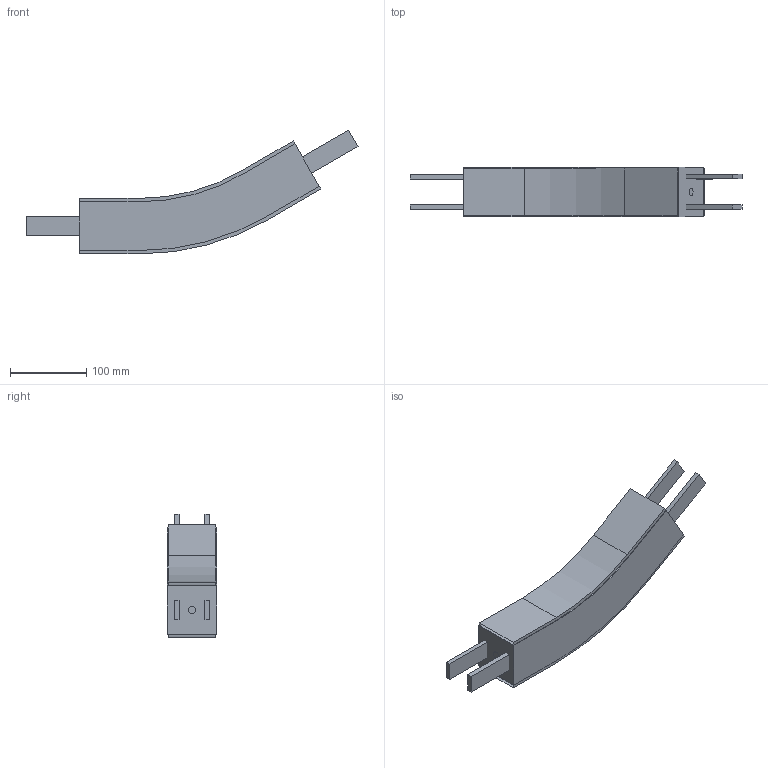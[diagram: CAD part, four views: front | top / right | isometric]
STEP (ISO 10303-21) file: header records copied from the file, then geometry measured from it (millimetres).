
FILE_DESCRIPTION(/* description */ ('Vertikaler Gleitbogen, 30°, R300'),/* implementation_level */ '2;1');
FILE_NAME(/* name */ 'T:\vdz0\Step Daten Website\modulflex FL-System\Vertikale Gleitbögen\FLBV 30R300_43670.stp',/* time_stamp */ '2024-09-03T10:01:13+02:00',/* author */ ('lzb0'),/* organization */ ('modular automation GmbH'),/* preprocessor_version */ 'ST-DEVELOPER v18.1',/* originating_system */ 'Autodesk Inventor 2021',/* authorisation */ '');
FILE_SCHEMA (('AUTOMOTIVE_DESIGN { 1 0 10303 214 3 1 1 }'));
Length unit declared in the file: millimetre
Products named in the file (1): FLBV 30R300
Bounding box: 436.15 x 65 x 162.52 mm (x, y, z)
Volume: 1403051.3 mm3; surface area: 212286.4 mm2
Topology: 5 solids, 9 shells, 52 faces, 126 edges, 84 vertices
Faces by surface type: plane 44, cylinder 8
Full cylindrical faces by diameter (mm): 10 x2
Entity records: 1598 total; most frequent: CARTESIAN_POINT 270, DIRECTION 250, ORIENTED_EDGE 232, EDGE_CURVE 126, LINE 110, VECTOR 110, VERTEX_POINT 84, AXIS2_PLACEMENT_3D 70
